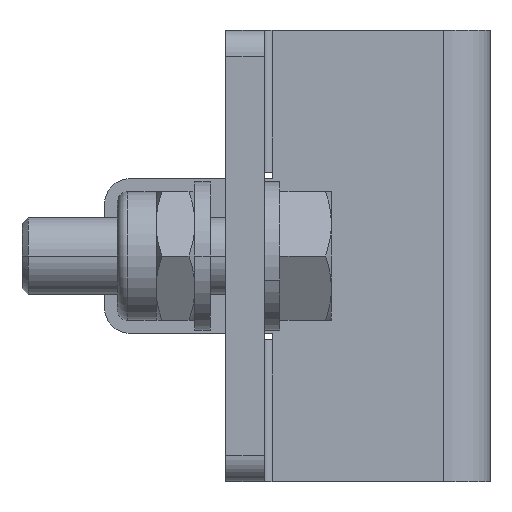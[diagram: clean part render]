
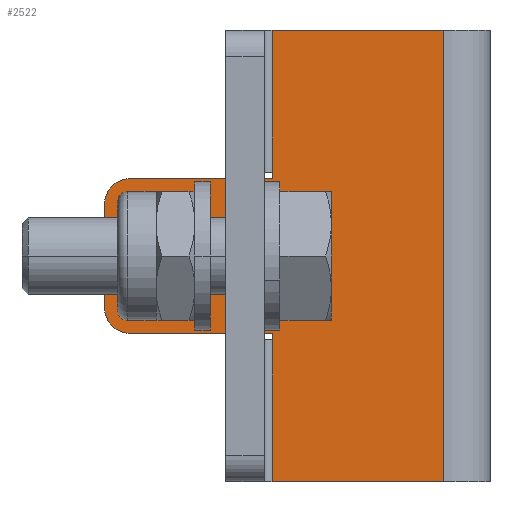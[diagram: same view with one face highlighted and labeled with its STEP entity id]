
A CAD part, left-side view. The second image highlights one B-rep face of the part: STEP entity #2522.
In plain terms, the highlighted planar face has unit normal (-1, 0, 0) as drawn and (0, -1, 0) by its records, which use the part's own axes.
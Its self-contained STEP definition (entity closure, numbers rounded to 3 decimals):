
#34 = VECTOR ( 'NONE', #2008, 1000. ) ;
#53 = CARTESIAN_POINT ( 'NONE',  ( 26.9, -3., 21.5 ) ) ;
#60 = VERTEX_POINT ( 'NONE', #2891 ) ;
#140 = CARTESIAN_POINT ( 'NONE',  ( 0., -3., 35. ) ) ;
#234 = EDGE_CURVE ( 'NONE', #1526, #60, #962, .T. ) ;
#301 = EDGE_CURVE ( 'NONE', #1920, #2866, #3629, .T. ) ;
#348 = DIRECTION ( 'NONE',  ( 0., 0., 1. ) ) ;
#356 = CARTESIAN_POINT ( 'NONE',  ( 13.9, -3., 24. ) ) ;
#382 = LINE ( 'NONE', #1540, #1746 ) ;
#389 = CARTESIAN_POINT ( 'NONE',  ( 24.9, -3., 11.5 ) ) ;
#402 = CARTESIAN_POINT ( 'NONE',  ( 13.9, -3., 35. ) ) ;
#546 = DIRECTION ( 'NONE',  ( 0., -1., 0. ) ) ;
#577 = LINE ( 'NONE', #1741, #3647 ) ;
#649 = DIRECTION ( 'NONE',  ( 0., 0., -1. ) ) ;
#694 = CARTESIAN_POINT ( 'NONE',  ( 26.9, -3., 13.5 ) ) ;
#697 = ORIENTED_EDGE ( 'NONE', *, *, #1636, .T. ) ;
#758 = VECTOR ( 'NONE', #2121, 1000. ) ;
#770 = ORIENTED_EDGE ( 'NONE', *, *, #3547, .T. ) ;
#799 = LINE ( 'NONE', #1967, #1612 ) ;
#814 = ORIENTED_EDGE ( 'NONE', *, *, #3646, .T. ) ;
#835 = EDGE_CURVE ( 'NONE', #2994, #60, #2377, .T. ) ;
#843 = CARTESIAN_POINT ( 'NONE',  ( 13.9, -3., 35. ) ) ;
#908 = CARTESIAN_POINT ( 'NONE',  ( 13.9, -3., 11. ) ) ;
#918 = DIRECTION ( 'NONE',  ( 0., 0., -1. ) ) ;
#951 = CARTESIAN_POINT ( 'NONE',  ( 26.9, -3., 23.5 ) ) ;
#962 = LINE ( 'NONE', #2129, #2608 ) ;
#1000 = CARTESIAN_POINT ( 'NONE',  ( 26.9, -3., 23.5 ) ) ;
#1016 = ORIENTED_EDGE ( 'NONE', *, *, #2476, .F. ) ;
#1133 = VECTOR ( 'NONE', #918, 1000. ) ;
#1158 = CARTESIAN_POINT ( 'NONE',  ( 0.6, -3., 0. ) ) ;
#1227 = CIRCLE ( 'NONE', #3381, 2. ) ;
#1287 = EDGE_CURVE ( 'NONE', #1920, #1413, #1227, .T. ) ;
#1297 = DIRECTION ( 'NONE',  ( 0., 1., 0. ) ) ;
#1411 = CARTESIAN_POINT ( 'NONE',  ( 13.9, -3., 11.5 ) ) ;
#1413 = VERTEX_POINT ( 'NONE', #2585 ) ;
#1448 = ORIENTED_EDGE ( 'NONE', *, *, #234, .T. ) ;
#1526 = VERTEX_POINT ( 'NONE', #1158 ) ;
#1539 = ORIENTED_EDGE ( 'NONE', *, *, #2242, .F. ) ;
#1540 = CARTESIAN_POINT ( 'NONE',  ( 0., -3., 35. ) ) ;
#1564 = DIRECTION ( 'NONE',  ( 0., 0., -1. ) ) ;
#1567 = AXIS2_PLACEMENT_3D ( 'NONE', #140, #1297, #2463 ) ;
#1586 = FACE_OUTER_BOUND ( 'NONE', #2429, .T. ) ;
#1612 = VECTOR ( 'NONE', #3134, 1000. ) ;
#1636 = EDGE_CURVE ( 'NONE', #3308, #2866, #3246, .T. ) ;
#1700 = VERTEX_POINT ( 'NONE', #2747 ) ;
#1706 = DIRECTION ( 'NONE',  ( 0., 0., 1. ) ) ;
#1741 = CARTESIAN_POINT ( 'NONE',  ( 26.9, -3., 11.5 ) ) ;
#1746 = VECTOR ( 'NONE', #2715, 1000. ) ;
#1794 = CARTESIAN_POINT ( 'NONE',  ( 24.9, -3., 13.5 ) ) ;
#1889 = ORIENTED_EDGE ( 'NONE', *, *, #3030, .F. ) ;
#1891 = VERTEX_POINT ( 'NONE', #2356 ) ;
#1920 = VERTEX_POINT ( 'NONE', #53 ) ;
#1935 = VERTEX_POINT ( 'NONE', #3256 ) ;
#1946 = VERTEX_POINT ( 'NONE', #356 ) ;
#1967 = CARTESIAN_POINT ( 'NONE',  ( 0.6, -3., 35. ) ) ;
#2008 = DIRECTION ( 'NONE',  ( 0., 0., -1. ) ) ;
#2028 = AXIS2_PLACEMENT_3D ( 'NONE', #1794, #2958, #348 ) ;
#2096 = LINE ( 'NONE', #3267, #2357 ) ;
#2121 = DIRECTION ( 'NONE',  ( -1., 0., 0. ) ) ;
#2129 = CARTESIAN_POINT ( 'NONE',  ( 0., -3., 0. ) ) ;
#2167 = DIRECTION ( 'NONE',  ( 0., 0., -1. ) ) ;
#2221 = ORIENTED_EDGE ( 'NONE', *, *, #2284, .F. ) ;
#2234 = VECTOR ( 'NONE', #1564, 1000. ) ;
#2242 = EDGE_CURVE ( 'NONE', #3579, #2994, #3465, .T. ) ;
#2284 = EDGE_CURVE ( 'NONE', #3308, #3579, #577, .T. ) ;
#2356 = CARTESIAN_POINT ( 'NONE',  ( 13.9, -3., 23.5 ) ) ;
#2357 = VECTOR ( 'NONE', #649, 1000. ) ;
#2361 = VECTOR ( 'NONE', #2167, 1000. ) ;
#2377 = LINE ( 'NONE', #3546, #1133 ) ;
#2429 = EDGE_LOOP ( 'NONE', ( #2464, #2549, #814, #3287, #1889, #1016, #770, #1448, #3124, #1539, #2221, #697 ) ) ;
#2463 = DIRECTION ( 'NONE',  ( 0., 0., 1. ) ) ;
#2464 = ORIENTED_EDGE ( 'NONE', *, *, #301, .F. ) ;
#2476 = EDGE_CURVE ( 'NONE', #1700, #1935, #382, .T. ) ;
#2483 = EDGE_CURVE ( 'NONE', #1946, #1891, #3015, .T. ) ;
#2522 = ADVANCED_FACE ( 'NONE', ( #1586 ), #2756, .F. ) ;
#2549 = ORIENTED_EDGE ( 'NONE', *, *, #1287, .T. ) ;
#2585 = CARTESIAN_POINT ( 'NONE',  ( 24.9, -3., 23.5 ) ) ;
#2608 = VECTOR ( 'NONE', #3299, 1000. ) ;
#2715 = DIRECTION ( 'NONE',  ( 1., 0., 0. ) ) ;
#2747 = CARTESIAN_POINT ( 'NONE',  ( 0.6, -3., 35. ) ) ;
#2756 = PLANE ( 'NONE',  #1567 ) ;
#2866 = VERTEX_POINT ( 'NONE', #694 ) ;
#2891 = CARTESIAN_POINT ( 'NONE',  ( 13.9, -3., 0. ) ) ;
#2905 = DIRECTION ( 'NONE',  ( -1., 0., 0. ) ) ;
#2958 = DIRECTION ( 'NONE',  ( 0., -1., 0. ) ) ;
#2994 = VERTEX_POINT ( 'NONE', #908 ) ;
#3015 = LINE ( 'NONE', #402, #2234 ) ;
#3030 = EDGE_CURVE ( 'NONE', #1935, #1946, #2096, .T. ) ;
#3124 = ORIENTED_EDGE ( 'NONE', *, *, #835, .F. ) ;
#3134 = DIRECTION ( 'NONE',  ( 0., 0., -1. ) ) ;
#3163 = CARTESIAN_POINT ( 'NONE',  ( 24.9, -3., 21.5 ) ) ;
#3246 = CIRCLE ( 'NONE', #2028, 2. ) ;
#3256 = CARTESIAN_POINT ( 'NONE',  ( 13.9, -3., 35. ) ) ;
#3267 = CARTESIAN_POINT ( 'NONE',  ( 13.9, -3., 35. ) ) ;
#3287 = ORIENTED_EDGE ( 'NONE', *, *, #2483, .F. ) ;
#3299 = DIRECTION ( 'NONE',  ( 1., 0., 0. ) ) ;
#3308 = VERTEX_POINT ( 'NONE', #389 ) ;
#3381 = AXIS2_PLACEMENT_3D ( 'NONE', #3163, #546, #1706 ) ;
#3465 = LINE ( 'NONE', #843, #34 ) ;
#3546 = CARTESIAN_POINT ( 'NONE',  ( 13.9, -3., 35. ) ) ;
#3547 = EDGE_CURVE ( 'NONE', #1700, #1526, #799, .T. ) ;
#3574 = LINE ( 'NONE', #951, #758 ) ;
#3579 = VERTEX_POINT ( 'NONE', #1411 ) ;
#3629 = LINE ( 'NONE', #1000, #2361 ) ;
#3646 = EDGE_CURVE ( 'NONE', #1413, #1891, #3574, .T. ) ;
#3647 = VECTOR ( 'NONE', #2905, 1000. ) ;
